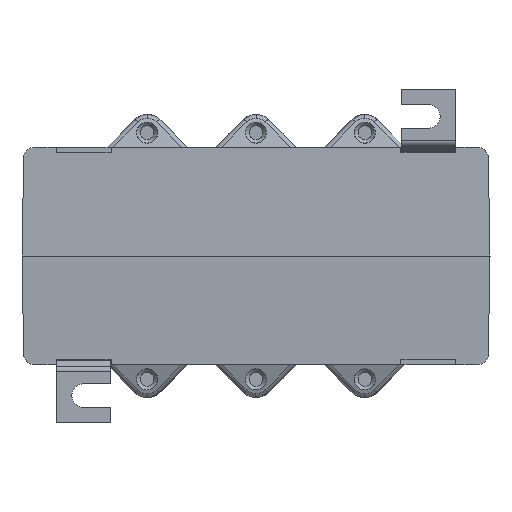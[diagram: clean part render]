
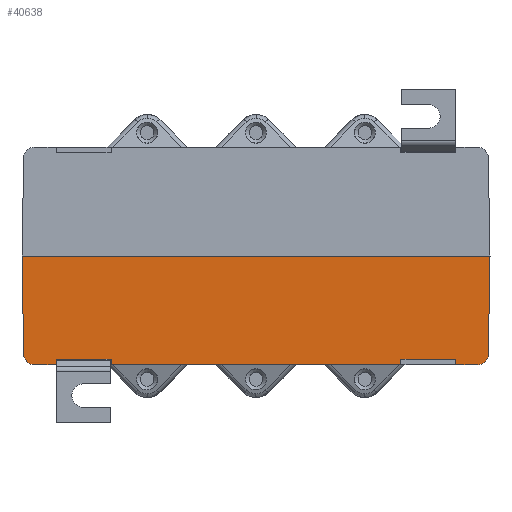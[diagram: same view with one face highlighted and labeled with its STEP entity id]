
A CAD part, front view. The second image highlights one B-rep face of the part: STEP entity #40638.
In plain terms, the highlighted planar face has unit normal (0, -1, -0.018).
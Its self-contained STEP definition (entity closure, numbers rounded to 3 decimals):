
#382=ELLIPSE('',#43170,3.,3.);
#383=ELLIPSE('',#43171,3.,3.);
#873=PLANE('',#43169);
#2763=FACE_OUTER_BOUND('',#5029,.T.);
#5029=EDGE_LOOP('',(#28943,#28944,#28945,#28946,#28947,#28948,#28949,#28950,
#28951,#28952,#28953,#28954,#28955,#28956));
#9354=LINE('',#82319,#13180);
#9360=LINE('',#82331,#13186);
#9364=LINE('',#82339,#13190);
#9434=LINE('',#82572,#13260);
#9435=LINE('',#82575,#13261);
#9436=LINE('',#82577,#13262);
#9437=LINE('',#82578,#13263);
#9438=LINE('',#82580,#13264);
#9439=LINE('',#82582,#13265);
#9440=LINE('',#82583,#13266);
#9441=LINE('',#82587,#13267);
#9442=LINE('',#82588,#13268);
#13180=VECTOR('',#47200,1000.);
#13186=VECTOR('',#47206,1000.);
#13190=VECTOR('',#47210,1000.);
#13260=VECTOR('',#47374,1000.);
#13261=VECTOR('',#47377,1000.);
#13262=VECTOR('',#47378,1000.);
#13263=VECTOR('',#47379,1000.);
#13264=VECTOR('',#47380,1000.);
#13265=VECTOR('',#47381,1000.);
#13266=VECTOR('',#47382,1000.);
#13267=VECTOR('',#47385,1000.);
#13268=VECTOR('',#47386,1000.);
#17546=VERTEX_POINT('',#82317);
#17547=VERTEX_POINT('',#82318);
#17552=VERTEX_POINT('',#82328);
#17553=VERTEX_POINT('',#82330);
#17556=VERTEX_POINT('',#82336);
#17557=VERTEX_POINT('',#82338);
#17672=VERTEX_POINT('',#82570);
#17673=VERTEX_POINT('',#82571);
#17674=VERTEX_POINT('',#82574);
#17675=VERTEX_POINT('',#82576);
#17676=VERTEX_POINT('',#82579);
#17677=VERTEX_POINT('',#82581);
#17678=VERTEX_POINT('',#82584);
#17679=VERTEX_POINT('',#82586);
#21779=EDGE_CURVE('',#17546,#17547,#9354,.T.);
#21785=EDGE_CURVE('',#17552,#17553,#9360,.T.);
#21789=EDGE_CURVE('',#17556,#17557,#9364,.T.);
#21905=EDGE_CURVE('',#17672,#17673,#9434,.T.);
#21906=EDGE_CURVE('',#17672,#17547,#382,.T.);
#21907=EDGE_CURVE('',#17546,#17674,#9435,.T.);
#21908=EDGE_CURVE('',#17674,#17675,#9436,.T.);
#21909=EDGE_CURVE('',#17675,#17557,#9437,.T.);
#21910=EDGE_CURVE('',#17676,#17556,#9438,.T.);
#21911=EDGE_CURVE('',#17676,#17677,#9439,.T.);
#21912=EDGE_CURVE('',#17553,#17677,#9440,.T.);
#21913=EDGE_CURVE('',#17552,#17678,#383,.T.);
#21914=EDGE_CURVE('',#17678,#17679,#9441,.T.);
#21915=EDGE_CURVE('',#17673,#17679,#9442,.T.);
#28943=ORIENTED_EDGE('',*,*,#21905,.F.);
#28944=ORIENTED_EDGE('',*,*,#21906,.T.);
#28945=ORIENTED_EDGE('',*,*,#21779,.F.);
#28946=ORIENTED_EDGE('',*,*,#21907,.T.);
#28947=ORIENTED_EDGE('',*,*,#21908,.T.);
#28948=ORIENTED_EDGE('',*,*,#21909,.T.);
#28949=ORIENTED_EDGE('',*,*,#21789,.F.);
#28950=ORIENTED_EDGE('',*,*,#21910,.F.);
#28951=ORIENTED_EDGE('',*,*,#21911,.T.);
#28952=ORIENTED_EDGE('',*,*,#21912,.F.);
#28953=ORIENTED_EDGE('',*,*,#21785,.F.);
#28954=ORIENTED_EDGE('',*,*,#21913,.T.);
#28955=ORIENTED_EDGE('',*,*,#21914,.T.);
#28956=ORIENTED_EDGE('',*,*,#21915,.F.);
#40638=ADVANCED_FACE('',(#2763),#873,.T.);
#43169=AXIS2_PLACEMENT_3D('',#82569,#47372,#47373);
#43170=AXIS2_PLACEMENT_3D('',#82573,#47375,#47376);
#43171=AXIS2_PLACEMENT_3D('',#82585,#47383,#47384);
#47200=DIRECTION('',(-1.,0.,0.));
#47206=DIRECTION('',(-1.,0.,0.));
#47210=DIRECTION('',(-1.,0.,0.));
#47372=DIRECTION('center_axis',(0.,-1.,
-0.017));
#47373=DIRECTION('ref_axis',(0.,-0.017,
1.));
#47374=DIRECTION('',(-0.017,-0.017,1.));
#47375=DIRECTION('center_axis',(0.,-1.,
-0.017));
#47376=DIRECTION('ref_axis',(0.,-0.017,1.));
#47377=DIRECTION('',(0.,-0.017,1.));
#47378=DIRECTION('',(1.,0.,0.));
#47379=DIRECTION('',(0.,0.017,-1.));
#47380=DIRECTION('',(0.,0.017,-1.));
#47381=DIRECTION('',(1.,0.,0.));
#47382=DIRECTION('',(0.,-0.017,1.));
#47383=DIRECTION('center_axis',(0.,-1.,
-0.017));
#47384=DIRECTION('ref_axis',(0.,-0.017,1.));
#47385=DIRECTION('',(0.017,-0.017,1.));
#47386=DIRECTION('',(1.,0.,0.));
#82317=CARTESIAN_POINT('',(-55.05,-76.976,-30.));
#82318=CARTESIAN_POINT('',(-61.028,-76.976,-30.));
#82319=CARTESIAN_POINT('',(-64.5,-76.976,-30.));
#82328=CARTESIAN_POINT('',(61.028,-76.976,-30.));
#82330=CARTESIAN_POINT('',(55.05,-76.976,-30.));
#82331=CARTESIAN_POINT('',(-64.5,-76.976,-30.));
#82336=CARTESIAN_POINT('',(39.95,-76.976,-30.));
#82338=CARTESIAN_POINT('',(-39.95,-76.976,-30.));
#82339=CARTESIAN_POINT('',(-64.5,-76.976,-30.));
#82569=CARTESIAN_POINT('Origin',(-64.5,-77.5,0.));
#82570=CARTESIAN_POINT('',(-64.028,-77.028,-27.052));
#82571=CARTESIAN_POINT('',(-64.5,-77.5,0.));
#82572=CARTESIAN_POINT('',(-64.5,-77.5,0.));
#82573=CARTESIAN_POINT('Origin',(-61.028,-77.029,-27.));
#82574=CARTESIAN_POINT('',(-55.05,-77.004,-28.4));
#82575=CARTESIAN_POINT('',(-55.05,-77.5,0.));
#82576=CARTESIAN_POINT('',(-39.95,-77.004,-28.4));
#82577=CARTESIAN_POINT('',(-64.5,-77.004,-28.4));
#82578=CARTESIAN_POINT('',(-39.95,-77.5,0.));
#82579=CARTESIAN_POINT('',(39.95,-77.004,-28.4));
#82580=CARTESIAN_POINT('',(39.95,-77.5,0.));
#82581=CARTESIAN_POINT('',(55.05,-77.004,-28.4));
#82582=CARTESIAN_POINT('',(-64.5,-77.004,-28.4));
#82583=CARTESIAN_POINT('',(55.05,-77.5,0.));
#82584=CARTESIAN_POINT('',(64.028,-77.028,-27.052));
#82585=CARTESIAN_POINT('Origin',(61.028,-77.029,-27.));
#82586=CARTESIAN_POINT('',(64.5,-77.5,0.));
#82587=CARTESIAN_POINT('',(64.461,-77.461,-2.25));
#82588=CARTESIAN_POINT('',(64.5,-77.5,0.));
